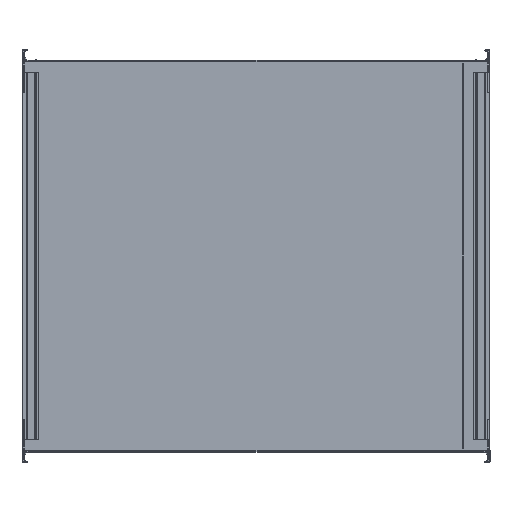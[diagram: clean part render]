
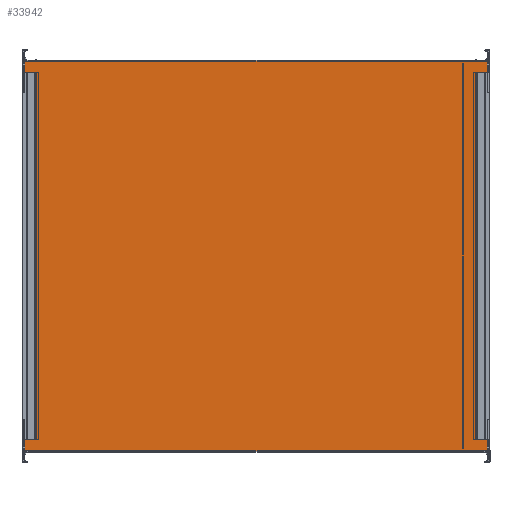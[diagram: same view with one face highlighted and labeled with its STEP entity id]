
A CAD part, front view. The second image highlights one B-rep face of the part: STEP entity #33942.
In plain terms, the highlighted planar face has unit normal (0, -1, 0).
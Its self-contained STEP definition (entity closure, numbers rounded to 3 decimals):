
#1878=FACE_BOUND('',#5142,.T.);
#3325=FACE_OUTER_BOUND('',#5141,.T.);
#5141=EDGE_LOOP('',(#27281,#27282,#27283,#27284,#27285,#27286,#27287,#27288,
#27289,#27290,#27291,#27292));
#5142=EDGE_LOOP('',(#27293,#27294,#27295,#27296));
#6635=LINE('',#47540,#9792);
#7044=LINE('',#51252,#10201);
#7929=LINE('',#54336,#11086);
#8114=LINE('',#55347,#11271);
#8526=LINE('',#57473,#11683);
#8558=LINE('',#57536,#11715);
#8560=LINE('',#57539,#11717);
#8568=LINE('',#57557,#11725);
#8569=LINE('',#57560,#11726);
#8572=LINE('',#57566,#11729);
#8573=LINE('',#57568,#11730);
#8574=LINE('',#57570,#11731);
#8575=LINE('',#57572,#11732);
#8576=LINE('',#57573,#11733);
#8577=LINE('',#57574,#11734);
#8578=LINE('',#57575,#11735);
#9792=VECTOR('',#37573,10.);
#10201=VECTOR('',#38172,10.);
#11086=VECTOR('',#40237,10.);
#11271=VECTOR('',#40846,10.);
#11683=VECTOR('',#42228,10.);
#11715=VECTOR('',#42322,10.);
#11717=VECTOR('',#42326,10.);
#11725=VECTOR('',#42350,10.);
#11726=VECTOR('',#42353,10.);
#11729=VECTOR('',#42358,10.);
#11730=VECTOR('',#42359,10.);
#11731=VECTOR('',#42360,10.);
#11732=VECTOR('',#42361,10.);
#11733=VECTOR('',#42362,10.);
#11734=VECTOR('',#42363,10.);
#11735=VECTOR('',#42364,10.);
#12962=VERTEX_POINT('',#47537);
#12963=VERTEX_POINT('',#47539);
#13461=VERTEX_POINT('',#51249);
#13462=VERTEX_POINT('',#51251);
#14254=VERTEX_POINT('',#54279);
#14281=VERTEX_POINT('',#54333);
#14282=VERTEX_POINT('',#54335);
#14502=VERTEX_POINT('',#55344);
#14503=VERTEX_POINT('',#55346);
#14530=VERTEX_POINT('',#55400);
#14968=VERTEX_POINT('',#57555);
#14969=VERTEX_POINT('',#57559);
#14971=VERTEX_POINT('',#57565);
#14972=VERTEX_POINT('',#57567);
#14973=VERTEX_POINT('',#57569);
#14974=VERTEX_POINT('',#57571);
#16285=EDGE_CURVE('',#12962,#12963,#6635,.T.);
#17028=EDGE_CURVE('',#13461,#13462,#7044,.T.);
#18193=EDGE_CURVE('',#14282,#14281,#7929,.T.);
#18514=EDGE_CURVE('',#14503,#14502,#8114,.T.);
#19220=EDGE_CURVE('',#14254,#14530,#8526,.T.);
#19252=EDGE_CURVE('',#14281,#14503,#8558,.T.);
#19254=EDGE_CURVE('',#14282,#14502,#8560,.T.);
#19262=EDGE_CURVE('',#14530,#14968,#8568,.T.);
#19263=EDGE_CURVE('',#14969,#14254,#8569,.T.);
#19266=EDGE_CURVE('',#14971,#13461,#8572,.T.);
#19267=EDGE_CURVE('',#14971,#14972,#8573,.T.);
#19268=EDGE_CURVE('',#14973,#14972,#8574,.T.);
#19269=EDGE_CURVE('',#14973,#14974,#8575,.T.);
#19270=EDGE_CURVE('',#14974,#12963,#8576,.T.);
#19271=EDGE_CURVE('',#14969,#12962,#8577,.T.);
#19272=EDGE_CURVE('',#14968,#13462,#8578,.T.);
#27281=ORIENTED_EDGE('',*,*,#19266,.F.);
#27282=ORIENTED_EDGE('',*,*,#19267,.T.);
#27283=ORIENTED_EDGE('',*,*,#19268,.F.);
#27284=ORIENTED_EDGE('',*,*,#19269,.T.);
#27285=ORIENTED_EDGE('',*,*,#19270,.T.);
#27286=ORIENTED_EDGE('',*,*,#16285,.F.);
#27287=ORIENTED_EDGE('',*,*,#19271,.F.);
#27288=ORIENTED_EDGE('',*,*,#19263,.T.);
#27289=ORIENTED_EDGE('',*,*,#19220,.T.);
#27290=ORIENTED_EDGE('',*,*,#19262,.T.);
#27291=ORIENTED_EDGE('',*,*,#19272,.T.);
#27292=ORIENTED_EDGE('',*,*,#17028,.F.);
#27293=ORIENTED_EDGE('',*,*,#19254,.F.);
#27294=ORIENTED_EDGE('',*,*,#18193,.T.);
#27295=ORIENTED_EDGE('',*,*,#19252,.T.);
#27296=ORIENTED_EDGE('',*,*,#18514,.T.);
#31203=PLANE('',#36057);
#33942=ADVANCED_FACE('',(#3325,#1878),#31203,.F.);
#36057=AXIS2_PLACEMENT_3D('',#57564,#42356,#42357);
#37573=DIRECTION('',(-1.,0.,0.));
#38172=DIRECTION('',(1.,0.,0.));
#40237=DIRECTION('',(-1.,0.,0.));
#40846=DIRECTION('',(1.,0.,0.));
#42228=DIRECTION('',(0.,0.,1.));
#42322=DIRECTION('',(0.,0.,1.));
#42326=DIRECTION('',(0.,0.,1.));
#42350=DIRECTION('',(0.,0.,1.));
#42353=DIRECTION('',(0.,0.,1.));
#42356=DIRECTION('center_axis',(0.,1.,0.));
#42357=DIRECTION('ref_axis',(0.,0.,1.));
#42358=DIRECTION('',(0.,0.,1.));
#42359=DIRECTION('',(0.,0.,-1.));
#42360=DIRECTION('',(0.,0.,1.));
#42361=DIRECTION('',(0.,0.,-1.));
#42362=DIRECTION('',(0.,0.,-1.));
#42363=DIRECTION('',(0.,0.,-1.));
#42364=DIRECTION('',(0.,0.,1.));
#47537=CARTESIAN_POINT('',(697.536,-364.342,-17.));
#47539=CARTESIAN_POINT('',(-24.464,-364.342,-17.));
#47540=CARTESIAN_POINT('',(336.536,-364.342,-17.));
#51249=CARTESIAN_POINT('',(-24.464,-364.342,585.));
#51251=CARTESIAN_POINT('',(697.536,-364.342,585.));
#51252=CARTESIAN_POINT('',(336.536,-364.342,585.));
#54279=CARTESIAN_POINT('',(697.536,-364.342,0.));
#54333=CARTESIAN_POINT('',(678.473,-364.342,0.));
#54335=CARTESIAN_POINT('',(690.769,-364.342,0.));
#54336=CARTESIAN_POINT('',(513.548,-364.342,0.));
#55344=CARTESIAN_POINT('',(690.769,-364.342,568.));
#55346=CARTESIAN_POINT('',(678.473,-364.342,568.));
#55347=CARTESIAN_POINT('',(513.548,-364.342,568.));
#55400=CARTESIAN_POINT('',(697.536,-364.342,568.));
#57473=CARTESIAN_POINT('',(697.536,-364.342,-17.));
#57536=CARTESIAN_POINT('',(678.473,-364.342,0.));
#57539=CARTESIAN_POINT('',(690.769,-364.342,0.));
#57555=CARTESIAN_POINT('',(697.536,-364.342,583.));
#57557=CARTESIAN_POINT('',(697.536,-364.342,-17.));
#57559=CARTESIAN_POINT('',(697.536,-364.342,-15.));
#57560=CARTESIAN_POINT('',(697.536,-364.342,-17.));
#57564=CARTESIAN_POINT('Origin',(336.536,-364.342,284.));
#57565=CARTESIAN_POINT('',(-24.464,-364.342,583.));
#57566=CARTESIAN_POINT('',(-24.464,-364.342,133.5));
#57567=CARTESIAN_POINT('',(-24.464,-364.342,568.));
#57568=CARTESIAN_POINT('',(-24.464,-364.342,585.));
#57569=CARTESIAN_POINT('',(-24.464,-364.342,0.));
#57570=CARTESIAN_POINT('',(-24.464,-364.342,426.));
#57571=CARTESIAN_POINT('',(-24.464,-364.342,-15.));
#57572=CARTESIAN_POINT('',(-24.464,-364.342,585.));
#57573=CARTESIAN_POINT('',(-24.464,-364.342,133.5));
#57574=CARTESIAN_POINT('',(697.536,-364.342,134.));
#57575=CARTESIAN_POINT('',(697.536,-364.342,134.));
